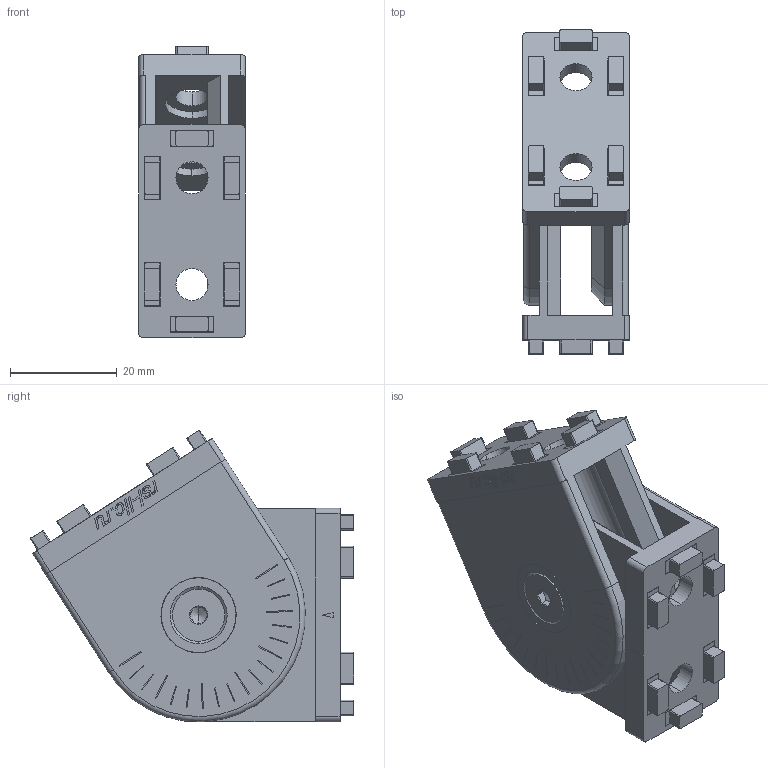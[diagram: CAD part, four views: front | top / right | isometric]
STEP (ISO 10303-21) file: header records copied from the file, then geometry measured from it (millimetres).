
FILE_DESCRIPTION (( 'STEP AP214' ), '1' );
FILE_NAME ('2121.STEP', '2022-10-20T10:45:14', ( '' ), ( '' ), 'SwSTEP 2.0', 'SolidWorks 2020', '' );
FILE_SCHEMA (( 'AUTOMOTIVE_DESIGN' ));
Length unit declared in the file: millimetre
Products named in the file (5): 2121-1; 2121-2; 2121-3; 2121; Âèíò-ïîò.-øåñòèãð.-ÃÎÑÒ-Ð-ÈÑÎ-10642-2012-DIN-7991_Œ5x8
Assembly tree (18 placements, depth 2):
  2121
    2121-1  x2
    2121-2  x2
    Âèíò-ïîò.-øåñòèãð.-ÃÎÑÒ-Ð-ÈÑÎ-10642-2012-DIN-7991_Œ5x8  x2
    2121-3  x12
Bounding box: 20.02 x 60.66 x 54.67 mm (x, y, z)
Volume: 25337.4 mm3; surface area: 22623.8 mm2
Topology: 44 solids, 44 shells, 948 faces, 2352 edges, 1558 vertices
Faces by surface type: plane 628, cylinder 212, bspline 70, cone 32, torus 6
Entity records: 16634 total; most frequent: CARTESIAN_POINT 6019, ORIENTED_EDGE 1868, DIRECTION 1690, EDGE_CURVE 934, LINE 688, VECTOR 688, VERTEX_POINT 619, AXIS2_PLACEMENT_3D 501
